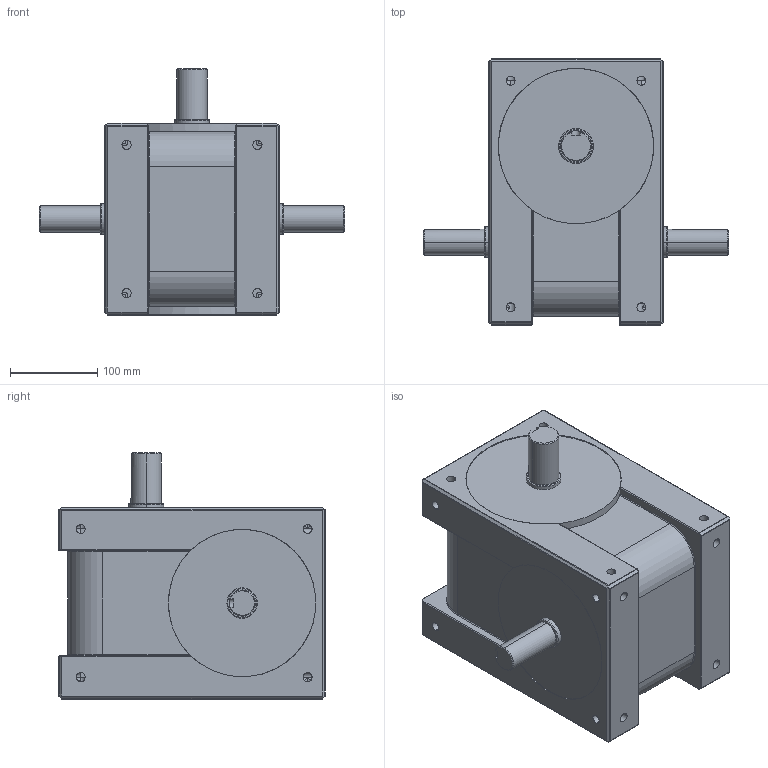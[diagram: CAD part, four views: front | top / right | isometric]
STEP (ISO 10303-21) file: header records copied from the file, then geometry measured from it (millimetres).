
FILE_DESCRIPTION((''),'2;1');
FILE_NAME('110DS','2015-01-15T',('松仔'),(''),'PRO/ENGINEER BY PARAMETRIC TECHNOLOGY CORPORATION, 2013430','PRO/ENGINEER BY PARAMETRIC TECHNOLOGY CORPORATION, 2013430','');
FILE_SCHEMA(('CONFIG_CONTROL_DESIGN'));
Length unit declared in the file: millimetre
Products named in the file (1): 110DS
Bounding box: 350 x 305 x 282 mm (x, y, z)
Volume: 12300973.6 mm3; surface area: 387568.5 mm2
Topology: 1 solids, 1 shells, 313 faces, 733 edges, 420 vertices
Faces by surface type: cylinder 167, plane 81, sphere 48, torus 14, cone 3
Entity records: 9378 total; most frequent: CARTESIAN_POINT 2220, DIRECTION 1523, ORIENTED_EDGE 1466, EDGE_CURVE 733, AXIS2_PLACEMENT_3D 598, VERTEX_POINT 420, EDGE_LOOP 343, VECTOR 327
